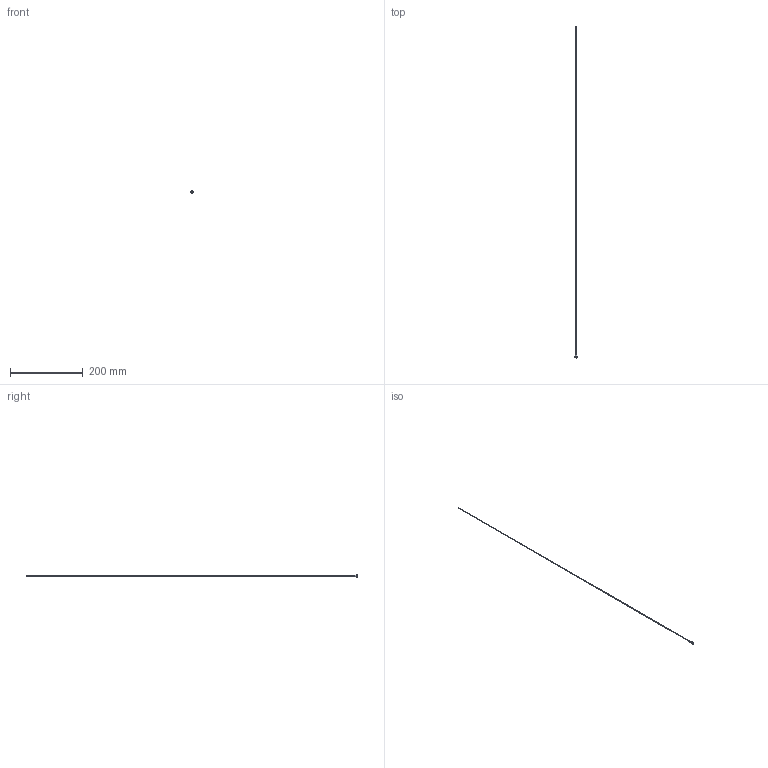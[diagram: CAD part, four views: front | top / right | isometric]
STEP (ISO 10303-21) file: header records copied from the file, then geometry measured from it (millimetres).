
FILE_DESCRIPTION(/* description */ (''),/* implementation_level */ '2;1');
FILE_NAME(/* name */ 'C:/Users/drich/Desktop/JR072T-36 v1.step',/* time_stamp */ '2019-12-30T12:58:37-06:00',/* author */ (''),/* organization */ (''),/* preprocessor_version */ 'ST-DEVELOPER v18',/* originating_system */ 'Autodesk Translation Framework v8.12.0.6',/* authorisation */ '');
FILE_SCHEMA (('AUTOMOTIVE_DESIGN { 1 0 10303 214 3 1 1 }'));
Length unit declared in the file: inch
Products named in the file (1): JR072T-36
Bounding box: 6.22 x 914.4 x 6.22 mm (x, y, z)
Volume: 922.9 mm3; surface area: 9817.8 mm2
Topology: 1 solids, 1 shells, 19 faces, 47 edges, 33 vertices
Faces by surface type: plane 11, cylinder 4, torus 3, cone 1
Full cylindrical faces by diameter (mm): 1.524 x1, 1.829 x1, 4.727 x1, 6.223 x1
Entity records: 624 total; most frequent: DIRECTION 111, CARTESIAN_POINT 100, ORIENTED_EDGE 94, EDGE_CURVE 47, AXIS2_PLACEMENT_3D 44, VERTEX_POINT 33, EDGE_LOOP 24, CIRCLE 24
